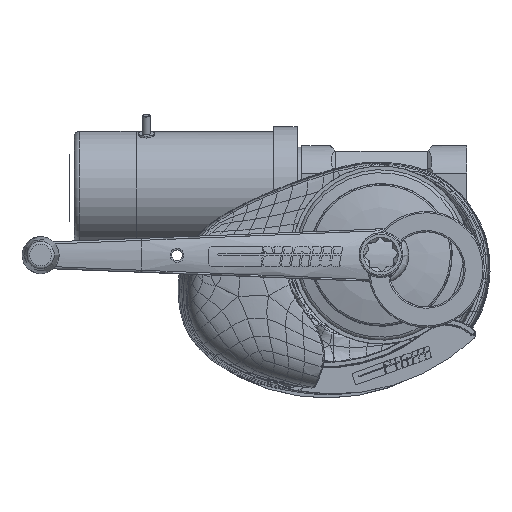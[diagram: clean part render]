
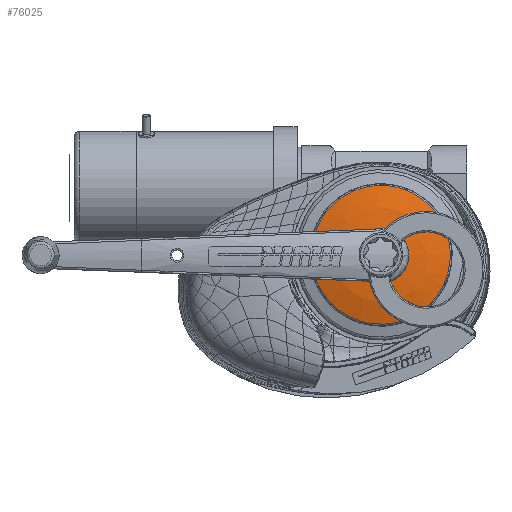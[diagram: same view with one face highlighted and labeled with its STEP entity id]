
A CAD part, top view. The second image highlights one B-rep face of the part: STEP entity #76025.
In plain terms, the highlighted free-form (B-spline) face has degree [2, 2] with [3, 9] control points.
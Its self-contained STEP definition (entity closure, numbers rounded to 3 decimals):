
#47=(
BOUNDED_SURFACE()
B_SPLINE_SURFACE(2,2,((#110884,#110885,#110886,#110887,#110888,#110889,
#110890,#110891,#110892),(#110893,#110894,#110895,#110896,#110897,#110898,
#110899,#110900,#110901),(#110902,#110903,#110904,#110905,#110906,#110907,
#110908,#110909,#110910)),.UNSPECIFIED.,.F.,.T.,.F.)
B_SPLINE_SURFACE_WITH_KNOTS((3,3),(3,2,2,2,3),(1.268,1.543),
(-3.142,-1.571,0.,1.571,3.142),
 .UNSPECIFIED.)
GEOMETRIC_REPRESENTATION_ITEM()
RATIONAL_B_SPLINE_SURFACE(((1.,0.707,1.,0.707,1.,
0.707,1.,0.707,1.),(0.991,0.7,
0.991,0.7,0.991,0.7,
0.991,0.7,0.991),(1.,0.707,
1.,0.707,1.,0.707,1.,0.707,1.)))
REPRESENTATION_ITEM('')
SURFACE()
);
#17370=FACE_OUTER_BOUND('',#22238,.T.);
#22238=EDGE_LOOP('',(#53744,#53745,#53746,#53747,#53748));
#27359=CIRCLE('',#81948,50.948);
#27361=CIRCLE('',#81950,18.5);
#27362=CIRCLE('',#81951,120.);
#27363=CIRCLE('',#81952,18.5);
#30757=VERTEX_POINT('',#110881);
#30758=VERTEX_POINT('',#110911);
#30759=VERTEX_POINT('',#110912);
#39247=EDGE_CURVE('',#30757,#30757,#27359,.T.);
#39249=EDGE_CURVE('',#30758,#30759,#27361,.T.);
#39250=EDGE_CURVE('',#30758,#30757,#27362,.T.);
#39251=EDGE_CURVE('',#30759,#30758,#27363,.T.);
#53744=ORIENTED_EDGE('',*,*,#39249,.F.);
#53745=ORIENTED_EDGE('',*,*,#39250,.T.);
#53746=ORIENTED_EDGE('',*,*,#39247,.T.);
#53747=ORIENTED_EDGE('',*,*,#39250,.F.);
#53748=ORIENTED_EDGE('',*,*,#39251,.F.);
#76025=ADVANCED_FACE('',(#17370),#47,.F.);
#81948=AXIS2_PLACEMENT_3D('',#110882,#90772,#90773);
#81950=AXIS2_PLACEMENT_3D('',#110913,#90776,#90777);
#81951=AXIS2_PLACEMENT_3D('',#110914,#90778,#90779);
#81952=AXIS2_PLACEMENT_3D('',#110915,#90780,#90781);
#90772=DIRECTION('center_axis',(0.,0.,
1.));
#90773=DIRECTION('ref_axis',(-0.39,0.921,0.));
#90776=DIRECTION('center_axis',(0.,0.,
1.));
#90777=DIRECTION('ref_axis',(-0.39,0.921,0.));
#90778=DIRECTION('center_axis',(-0.39,0.921,0.));
#90779=DIRECTION('ref_axis',(0.921,0.39,0.));
#90780=DIRECTION('center_axis',(0.,0.,
1.));
#90781=DIRECTION('ref_axis',(-0.39,0.921,0.));
#110881=CARTESIAN_POINT('',(132.939,77.935,165.375));
#110882=CARTESIAN_POINT('Origin',(86.023,58.071,165.375));
#110884=CARTESIAN_POINT('Ctrl Pts',(132.939,77.935,165.375));
#110885=CARTESIAN_POINT('Ctrl Pts',(113.075,124.851,165.375));
#110886=CARTESIAN_POINT('Ctrl Pts',(66.159,104.987,165.375));
#110887=CARTESIAN_POINT('Ctrl Pts',(19.243,85.124,165.375));
#110888=CARTESIAN_POINT('Ctrl Pts',(39.107,38.208,165.375));
#110889=CARTESIAN_POINT('Ctrl Pts',(58.971,-8.708,
165.375));
#110890=CARTESIAN_POINT('Ctrl Pts',(105.887,11.155,165.375));
#110891=CARTESIAN_POINT('Ctrl Pts',(152.803,31.019,165.375));
#110892=CARTESIAN_POINT('Ctrl Pts',(132.939,77.935,165.375));
#110893=CARTESIAN_POINT('Ctrl Pts',(118.345,71.756,170.333));
#110894=CARTESIAN_POINT('Ctrl Pts',(104.66,104.078,170.333));
#110895=CARTESIAN_POINT('Ctrl Pts',(72.338,90.393,170.333));
#110896=CARTESIAN_POINT('Ctrl Pts',(40.017,76.708,170.333));
#110897=CARTESIAN_POINT('Ctrl Pts',(53.701,44.387,170.333));
#110898=CARTESIAN_POINT('Ctrl Pts',(67.386,12.065,170.333));
#110899=CARTESIAN_POINT('Ctrl Pts',(99.708,25.75,170.333));
#110900=CARTESIAN_POINT('Ctrl Pts',(132.029,39.435,170.333));
#110901=CARTESIAN_POINT('Ctrl Pts',(118.345,71.756,170.333));
#110902=CARTESIAN_POINT('Ctrl Pts',(103.059,65.284,170.8));
#110903=CARTESIAN_POINT('Ctrl Pts',(95.846,82.32,170.8));
#110904=CARTESIAN_POINT('Ctrl Pts',(78.81,75.107,170.8));
#110905=CARTESIAN_POINT('Ctrl Pts',(61.774,67.894,170.8));
#110906=CARTESIAN_POINT('Ctrl Pts',(68.987,50.859,170.8));
#110907=CARTESIAN_POINT('Ctrl Pts',(76.2,33.823,170.8));
#110908=CARTESIAN_POINT('Ctrl Pts',(93.236,41.035,170.8));
#110909=CARTESIAN_POINT('Ctrl Pts',(110.272,48.248,170.8));
#110910=CARTESIAN_POINT('Ctrl Pts',(103.059,65.284,170.8));
#110911=CARTESIAN_POINT('',(103.059,65.284,170.8));
#110912=CARTESIAN_POINT('',(93.236,41.035,170.8));
#110913=CARTESIAN_POINT('Origin',(86.023,58.071,170.8));
#110914=CARTESIAN_POINT('Origin',(99.948,63.967,50.848));
#110915=CARTESIAN_POINT('Origin',(86.023,58.071,170.8));
